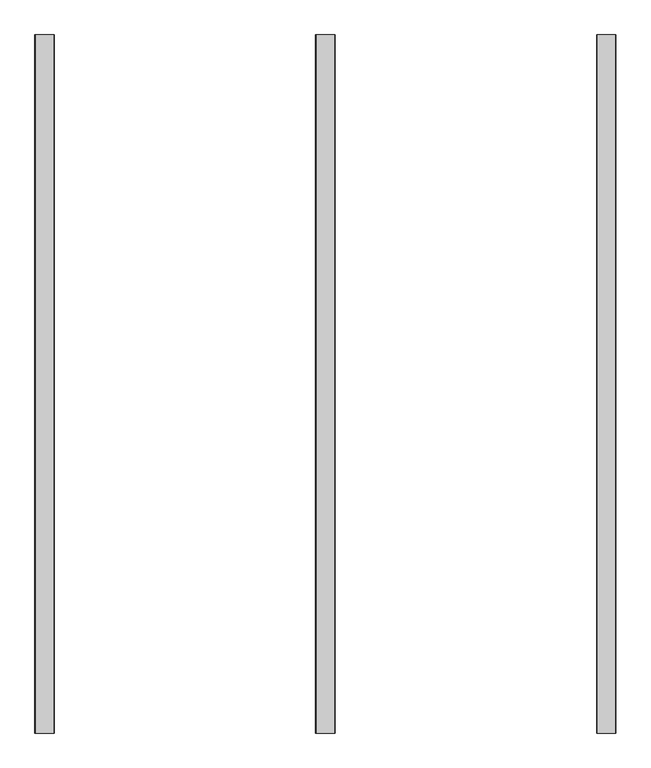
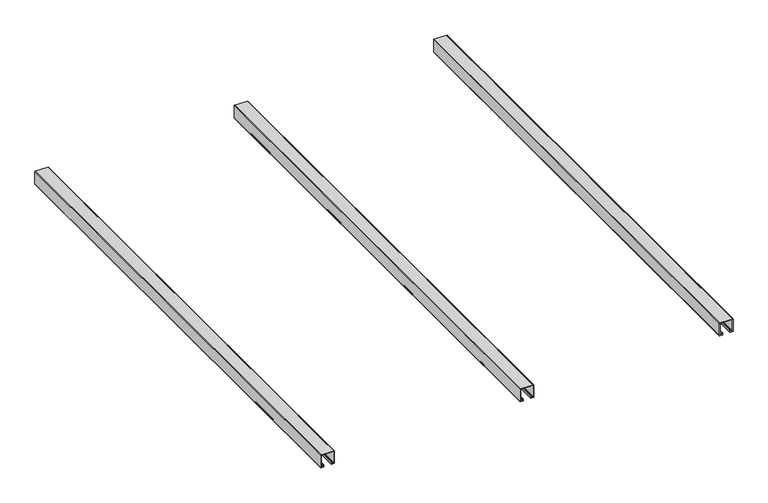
"""IFC4 building model written with IfcOpenShell, lengths in millimetres: proxy geometry, modelo_altus 11.3dm."""

from ifc_helpers import new_model, si_unit, point, frame, frame_2d, origin, place, context, project, spatial, polyline, circle_curve, trimmed, segment, composite_curve, outline, extrude, source, transform, mapped, element, save


def generic_models_d19dd1a3(model_context):
    return source(origin(), model_context, "Body", "SweptSolid", [
        extrude(outline(composite_curve([segment(polyline([(-52.5674225, -5720.3218075), (-48.9674225, -5720.3218075)]), True, "CONTINUOUS"), segment(trimmed(circle_curve(frame_2d((-48.9674225, -5721.3218075)), 1.0), [point((-48.9674225, -5720.3218075))], [point((-48.9674225, -5722.3218075))], False, "CARTESIAN"), True, "CONTINUOUS"), segment(polyline([(-48.9674225, -5722.3218075), (-54.0674225, -5722.3218075)]), True, "CONTINUOUS"), segment(trimmed(circle_curve(frame_2d((-54.0674225, -5721.3218075)), 1.0), [point((-54.0674225, -5722.3218075))], [point((-55.0674225, -5721.3218075))], False, "CARTESIAN"), True, "CONTINUOUS"), segment(polyline([(-55.0674225, -5721.3218075), (-55.0674225, -5713.7718075)]), True, "CONTINUOUS"), segment(trimmed(circle_curve(frame_2d((-54.0674225, -5713.7718075)), 1.0), [point((-55.0674225, -5713.7718075))], [point((-54.0674225, -5712.7718075))], False, "CARTESIAN"), True, "CONTINUOUS"), segment(polyline([(-54.0674225, -5712.7718075), (-14.7674225, -5712.7718075)]), True, "CONTINUOUS"), segment(trimmed(circle_curve(frame_2d((-14.7674225, -5713.7718075)), 1.0), [point((-14.7674225, -5712.7718075))], [point((-13.7674225, -5713.7718075))], False, "CARTESIAN"), True, "CONTINUOUS"), segment(polyline([(-13.7674225, -5713.7718075), (-13.7674225, -5753.0718075)]), True, "CONTINUOUS"), segment(trimmed(circle_curve(frame_2d((-14.7674225, -5753.0718075)), 1.0), [point((-13.7674225, -5753.0718075))], [point((-14.7674225, -5754.0718075))], False, "CARTESIAN"), True, "CONTINUOUS"), segment(polyline([(-14.7674225, -5754.0718075), (-54.0674225, -5754.0718075)]), True, "CONTINUOUS"), segment(trimmed(circle_curve(frame_2d((-54.0674225, -5753.0718075)), 1.0), [point((-54.0674225, -5754.0718075))], [point((-55.0674225, -5753.0718075))], False, "CARTESIAN"), True, "CONTINUOUS"), segment(polyline([(-55.0674225, -5753.0718075), (-55.0674225, -5745.5218075)]), True, "CONTINUOUS"), segment(trimmed(circle_curve(frame_2d((-54.0674225, -5745.5218075)), 1.0), [point((-55.0674225, -5745.5218075))], [point((-54.0674225, -5744.5218075))], False, "CARTESIAN"), True, "CONTINUOUS"), segment(polyline([(-54.0674225, -5744.5218075), (-48.9674225, -5744.5218075)]), True, "CONTINUOUS"), segment(trimmed(circle_curve(frame_2d((-48.9674225, -5745.5218075)), 1.0), [point((-48.9674225, -5744.5218075))], [point((-48.9674225, -5746.5218075))], False, "CARTESIAN"), True, "CONTINUOUS"), segment(polyline([(-48.9674225, -5746.5218075), (-52.5674225, -5746.5218075)]), True, "CONTINUOUS"), segment(trimmed(circle_curve(frame_2d((-52.5674225, -5747.0218075)), 0.5), [point((-52.5674225, -5746.5218075))], [point((-53.0674225, -5747.0218075))], True, "CARTESIAN"), True, "CONTINUOUS"), segment(polyline([(-53.0674225, -5747.0218075), (-53.0674225, -5751.5718075)]), True, "CONTINUOUS"), segment(trimmed(circle_curve(frame_2d((-52.5674225, -5751.5718075)), 0.5), [point((-53.0674225, -5751.5718075))], [point((-52.5674225, -5752.0718075))], True, "CARTESIAN"), True, "CONTINUOUS"), segment(polyline([(-52.5674225, -5752.0718075), (-16.2674225, -5752.0718075)]), True, "CONTINUOUS"), segment(trimmed(circle_curve(frame_2d((-16.2674225, -5751.5718075)), 0.5), [point((-16.2674225, -5752.0718075))], [point((-15.7674225, -5751.5718075))], True, "CARTESIAN"), True, "CONTINUOUS"), segment(polyline([(-15.7674225, -5751.5718075), (-15.7674225, -5715.2718075)]), True, "CONTINUOUS"), segment(trimmed(circle_curve(frame_2d((-16.2674225, -5715.2718075)), 0.5), [point((-15.7674225, -5715.2718075))], [point((-16.2674225, -5714.7718075))], True, "CARTESIAN"), True, "CONTINUOUS"), segment(polyline([(-16.2674225, -5714.7718075), (-52.5674225, -5714.7718075)]), True, "CONTINUOUS"), segment(trimmed(circle_curve(frame_2d((-52.5674225, -5715.2718075)), 0.5), [point((-52.5674225, -5714.7718075))], [point((-53.0674225, -5715.2718075))], True, "CARTESIAN"), True, "CONTINUOUS"), segment(polyline([(-53.0674225, -5715.2718075), (-53.0674225, -5719.8218075)]), True, "CONTINUOUS"), segment(trimmed(circle_curve(frame_2d((-52.5674225, -5719.8218075)), 0.5), [point((-53.0674225, -5719.8218075))], [point((-52.5674225, -5720.3218075))], True, "CARTESIAN"), True, "CONTINUOUS")], self_intersect=False)), frame((0.0, -154.0904841, 0.0), z_axis=(0.0, 1.0, 0.0), x_axis=(0.0, 0.0, 1.0)), (0.0, 0.0, 1.0), 1498.6),
        extrude(outline(composite_curve([segment(polyline([(-52.5674225, -4513.8218075), (-48.9674225, -4513.8218075)]), True, "CONTINUOUS"), segment(trimmed(circle_curve(frame_2d((-48.9674225, -4514.8218075)), 1.0), [point((-48.9674225, -4513.8218075))], [point((-48.9674225, -4515.8218075))], False, "CARTESIAN"), True, "CONTINUOUS"), segment(polyline([(-48.9674225, -4515.8218075), (-54.0674225, -4515.8218075)]), True, "CONTINUOUS"), segment(trimmed(circle_curve(frame_2d((-54.0674225, -4514.8218075)), 1.0), [point((-54.0674225, -4515.8218075))], [point((-55.0674225, -4514.8218075))], False, "CARTESIAN"), True, "CONTINUOUS"), segment(polyline([(-55.0674225, -4514.8218075), (-55.0674225, -4507.2718075)]), True, "CONTINUOUS"), segment(trimmed(circle_curve(frame_2d((-54.0674225, -4507.2718075)), 1.0), [point((-55.0674225, -4507.2718075))], [point((-54.0674225, -4506.2718075))], False, "CARTESIAN"), True, "CONTINUOUS"), segment(polyline([(-54.0674225, -4506.2718075), (-14.7674225, -4506.2718075)]), True, "CONTINUOUS"), segment(trimmed(circle_curve(frame_2d((-14.7674225, -4507.2718075)), 1.0), [point((-14.7674225, -4506.2718075))], [point((-13.7674225, -4507.2718075))], False, "CARTESIAN"), True, "CONTINUOUS"), segment(polyline([(-13.7674225, -4507.2718075), (-13.7674225, -4546.5718075)]), True, "CONTINUOUS"), segment(trimmed(circle_curve(frame_2d((-14.7674225, -4546.5718075)), 1.0), [point((-13.7674225, -4546.5718075))], [point((-14.7674225, -4547.5718075))], False, "CARTESIAN"), True, "CONTINUOUS"), segment(polyline([(-14.7674225, -4547.5718075), (-54.0674225, -4547.5718075)]), True, "CONTINUOUS"), segment(trimmed(circle_curve(frame_2d((-54.0674225, -4546.5718075)), 1.0), [point((-54.0674225, -4547.5718075))], [point((-55.0674225, -4546.5718075))], False, "CARTESIAN"), True, "CONTINUOUS"), segment(polyline([(-55.0674225, -4546.5718075), (-55.0674225, -4539.0218075)]), True, "CONTINUOUS"), segment(trimmed(circle_curve(frame_2d((-54.0674225, -4539.0218075)), 1.0), [point((-55.0674225, -4539.0218075))], [point((-54.0674225, -4538.0218075))], False, "CARTESIAN"), True, "CONTINUOUS"), segment(polyline([(-54.0674225, -4538.0218075), (-48.9674225, -4538.0218075)]), True, "CONTINUOUS"), segment(trimmed(circle_curve(frame_2d((-48.9674225, -4539.0218075)), 1.0), [point((-48.9674225, -4538.0218075))], [point((-48.9674225, -4540.0218075))], False, "CARTESIAN"), True, "CONTINUOUS"), segment(polyline([(-48.9674225, -4540.0218075), (-52.5674225, -4540.0218075)]), True, "CONTINUOUS"), segment(trimmed(circle_curve(frame_2d((-52.5674225, -4540.5218075)), 0.5), [point((-52.5674225, -4540.0218075))], [point((-53.0674225, -4540.5218075))], True, "CARTESIAN"), True, "CONTINUOUS"), segment(polyline([(-53.0674225, -4540.5218075), (-53.0674225, -4545.0718075)]), True, "CONTINUOUS"), segment(trimmed(circle_curve(frame_2d((-52.5674225, -4545.0718075)), 0.5), [point((-53.0674225, -4545.0718075))], [point((-52.5674225, -4545.5718075))], True, "CARTESIAN"), True, "CONTINUOUS"), segment(polyline([(-52.5674225, -4545.5718075), (-16.2674225, -4545.5718075)]), True, "CONTINUOUS"), segment(trimmed(circle_curve(frame_2d((-16.2674225, -4545.0718075)), 0.5), [point((-16.2674225, -4545.5718075))], [point((-15.7674225, -4545.0718075))], True, "CARTESIAN"), True, "CONTINUOUS"), segment(polyline([(-15.7674225, -4545.0718075), (-15.7674225, -4508.7718075)]), True, "CONTINUOUS"), segment(trimmed(circle_curve(frame_2d((-16.2674225, -4508.7718075)), 0.5), [point((-15.7674225, -4508.7718075))], [point((-16.2674225, -4508.2718075))], True, "CARTESIAN"), True, "CONTINUOUS"), segment(polyline([(-16.2674225, -4508.2718075), (-52.5674225, -4508.2718075)]), True, "CONTINUOUS"), segment(trimmed(circle_curve(frame_2d((-52.5674225, -4508.7718075)), 0.5), [point((-52.5674225, -4508.2718075))], [point((-53.0674225, -4508.7718075))], True, "CARTESIAN"), True, "CONTINUOUS"), segment(polyline([(-53.0674225, -4508.7718075), (-53.0674225, -4513.3218075)]), True, "CONTINUOUS"), segment(trimmed(circle_curve(frame_2d((-52.5674225, -4513.3218075)), 0.5), [point((-53.0674225, -4513.3218075))], [point((-52.5674225, -4513.8218075))], True, "CARTESIAN"), True, "CONTINUOUS")], self_intersect=False)), frame((0.0, -154.0904841, 0.0), z_axis=(0.0, 1.0, 0.0), x_axis=(0.0, 0.0, 1.0)), (0.0, 0.0, 1.0), 1498.6),
        extrude(outline(composite_curve([segment(polyline([(-52.5674225, -5117.0718075), (-48.9674225, -5117.0718075)]), True, "CONTINUOUS"), segment(trimmed(circle_curve(frame_2d((-48.9674225, -5118.0718075)), 1.0), [point((-48.9674225, -5117.0718075))], [point((-48.9674225, -5119.0718075))], False, "CARTESIAN"), True, "CONTINUOUS"), segment(polyline([(-48.9674225, -5119.0718075), (-54.0674225, -5119.0718075)]), True, "CONTINUOUS"), segment(trimmed(circle_curve(frame_2d((-54.0674225, -5118.0718075)), 1.0), [point((-54.0674225, -5119.0718075))], [point((-55.0674225, -5118.0718075))], False, "CARTESIAN"), True, "CONTINUOUS"), segment(polyline([(-55.0674225, -5118.0718075), (-55.0674225, -5110.5218075)]), True, "CONTINUOUS"), segment(trimmed(circle_curve(frame_2d((-54.0674225, -5110.5218075)), 1.0), [point((-55.0674225, -5110.5218075))], [point((-54.0674225, -5109.5218075))], False, "CARTESIAN"), True, "CONTINUOUS"), segment(polyline([(-54.0674225, -5109.5218075), (-14.7674225, -5109.5218075)]), True, "CONTINUOUS"), segment(trimmed(circle_curve(frame_2d((-14.7674225, -5110.5218075)), 1.0), [point((-14.7674225, -5109.5218075))], [point((-13.7674225, -5110.5218075))], False, "CARTESIAN"), True, "CONTINUOUS"), segment(polyline([(-13.7674225, -5110.5218075), (-13.7674225, -5149.8218075)]), True, "CONTINUOUS"), segment(trimmed(circle_curve(frame_2d((-14.7674225, -5149.8218075)), 1.0), [point((-13.7674225, -5149.8218075))], [point((-14.7674225, -5150.8218075))], False, "CARTESIAN"), True, "CONTINUOUS"), segment(polyline([(-14.7674225, -5150.8218075), (-54.0674225, -5150.8218075)]), True, "CONTINUOUS"), segment(trimmed(circle_curve(frame_2d((-54.0674225, -5149.8218075)), 1.0), [point((-54.0674225, -5150.8218075))], [point((-55.0674225, -5149.8218075))], False, "CARTESIAN"), True, "CONTINUOUS"), segment(polyline([(-55.0674225, -5149.8218075), (-55.0674225, -5142.2718075)]), True, "CONTINUOUS"), segment(trimmed(circle_curve(frame_2d((-54.0674225, -5142.2718075)), 1.0), [point((-55.0674225, -5142.2718075))], [point((-54.0674225, -5141.2718075))], False, "CARTESIAN"), True, "CONTINUOUS"), segment(polyline([(-54.0674225, -5141.2718075), (-48.9674225, -5141.2718075)]), True, "CONTINUOUS"), segment(trimmed(circle_curve(frame_2d((-48.9674225, -5142.2718075)), 1.0), [point((-48.9674225, -5141.2718075))], [point((-48.9674225, -5143.2718075))], False, "CARTESIAN"), True, "CONTINUOUS"), segment(polyline([(-48.9674225, -5143.2718075), (-52.5674225, -5143.2718075)]), True, "CONTINUOUS"), segment(trimmed(circle_curve(frame_2d((-52.5674225, -5143.7718075)), 0.5), [point((-52.5674225, -5143.2718075))], [point((-53.0674225, -5143.7718075))], True, "CARTESIAN"), True, "CONTINUOUS"), segment(polyline([(-53.0674225, -5143.7718075), (-53.0674225, -5148.3218075)]), True, "CONTINUOUS"), segment(trimmed(circle_curve(frame_2d((-52.5674225, -5148.3218075)), 0.5), [point((-53.0674225, -5148.3218075))], [point((-52.5674225, -5148.8218075))], True, "CARTESIAN"), True, "CONTINUOUS"), segment(polyline([(-52.5674225, -5148.8218075), (-16.2674225, -5148.8218075)]), True, "CONTINUOUS"), segment(trimmed(circle_curve(frame_2d((-16.2674225, -5148.3218075)), 0.5), [point((-16.2674225, -5148.8218075))], [point((-15.7674225, -5148.3218075))], True, "CARTESIAN"), True, "CONTINUOUS"), segment(polyline([(-15.7674225, -5148.3218075), (-15.7674225, -5112.0218075)]), True, "CONTINUOUS"), segment(trimmed(circle_curve(frame_2d((-16.2674225, -5112.0218075)), 0.5), [point((-15.7674225, -5112.0218075))], [point((-16.2674225, -5111.5218075))], True, "CARTESIAN"), True, "CONTINUOUS"), segment(polyline([(-16.2674225, -5111.5218075), (-52.5674225, -5111.5218075)]), True, "CONTINUOUS"), segment(trimmed(circle_curve(frame_2d((-52.5674225, -5112.0218075)), 0.5), [point((-52.5674225, -5111.5218075))], [point((-53.0674225, -5112.0218075))], True, "CARTESIAN"), True, "CONTINUOUS"), segment(polyline([(-53.0674225, -5112.0218075), (-53.0674225, -5116.5718075)]), True, "CONTINUOUS"), segment(trimmed(circle_curve(frame_2d((-52.5674225, -5116.5718075)), 0.5), [point((-53.0674225, -5116.5718075))], [point((-52.5674225, -5117.0718075))], True, "CARTESIAN"), True, "CONTINUOUS")], self_intersect=False)), frame((0.0, -154.0904841, 0.0), z_axis=(0.0, 1.0, 0.0), x_axis=(0.0, 0.0, 1.0)), (0.0, 0.0, 1.0), 1498.6),
    ])


if __name__ == "__main__":
    model = new_model("IFC4")
    model_context = context("Model", 3, world=origin())
    ifc_project = project(units=[si_unit("LENGTHUNIT", "METRE", prefix="MILLI")], contexts=[model_context])
    site = spatial("IfcSite", under=ifc_project)
    building = spatial("IfcBuilding", under=site)
    placement = place(None, origin())
    generic_models_shape = generic_models_d19dd1a3(model_context)
    element("IfcBuildingElementProxy", 1, Name="modelo_altus 11.3dm", ObjectType="modelo_altus 11.3dm", at=placement, inside=building, context=model_context, shape_type="MappedRepresentation", body=[
        mapped(generic_models_shape, transform((0.0, 0.0, 0.0), x_axis=(1.0, 0.0, 0.0), y_axis=(0.0, 1.0, 0.0), z_axis=(0.0, 0.0, 1.0))),
    ])
    save(model, "model.ifc")
